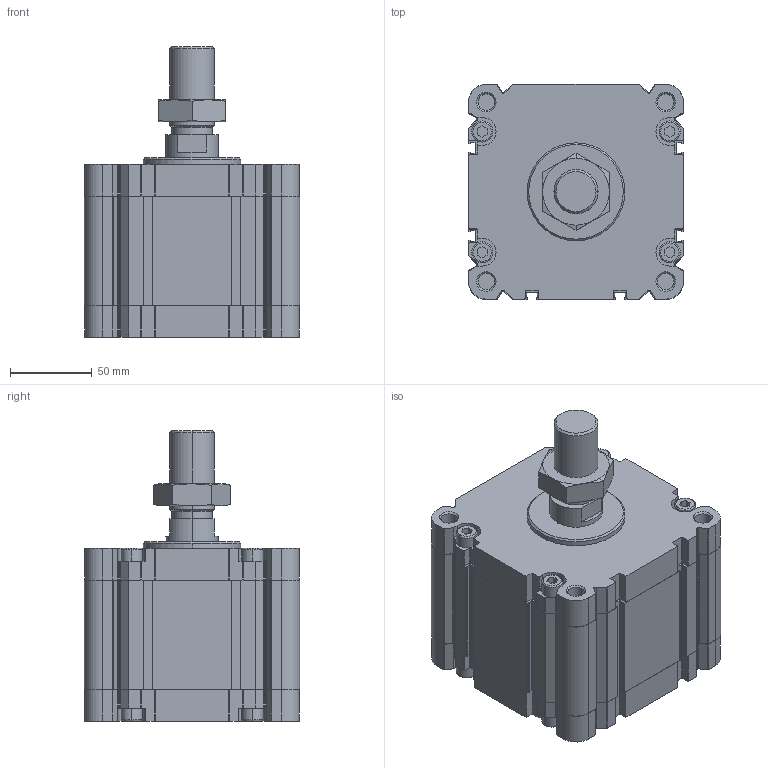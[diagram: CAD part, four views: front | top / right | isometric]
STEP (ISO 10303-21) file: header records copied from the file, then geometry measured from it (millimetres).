
FILE_DESCRIPTION (( 'STEP AP203' ), '1' );
FILE_NAME ('CDVU125-25.STEP', '2020-03-19T11:43:17', ( '' ), ( '' ), 'SwSTEP 2.0', 'SolidWorks 2019', '' );
FILE_SCHEMA (( 'CONFIG_CONTROL_DESIGN' ));
Length unit declared in the file: millimetre
Products named in the file (1): CDVU125-25
Bounding box: 132 x 132 x 178 mm (x, y, z)
Volume: 1539239.8 mm3; surface area: 196492.4 mm2
Topology: 3 solids, 3 shells, 666 faces, 1810 edges, 1180 vertices
Faces by surface type: plane 324, cylinder 270, cone 56, torus 16
Entity records: 21537 total; most frequent: CARTESIAN_POINT 4097, DIRECTION 3754, ORIENTED_EDGE 3612, EDGE_CURVE 1806, AXIS2_PLACEMENT_3D 1293, VERTEX_POINT 1180, LINE 1168, VECTOR 1168
